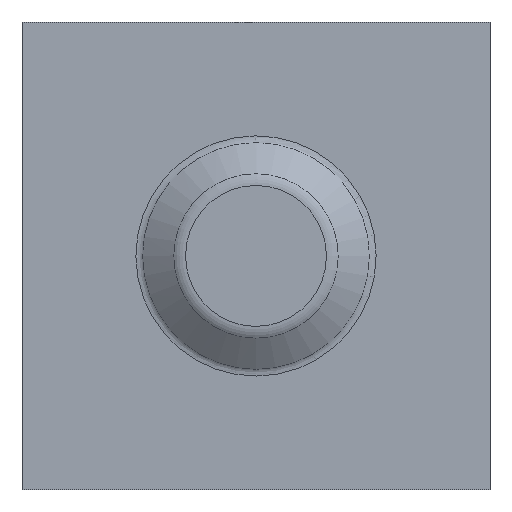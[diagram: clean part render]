
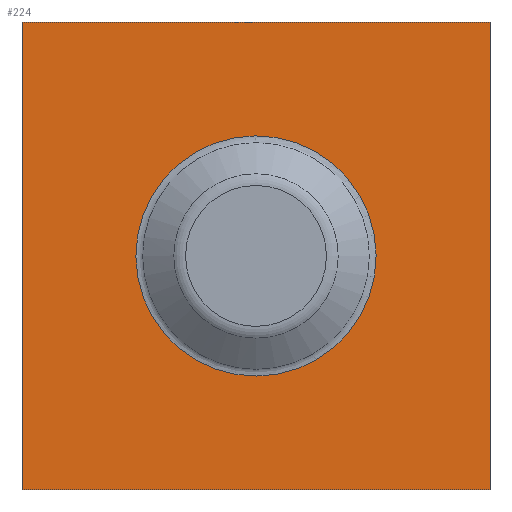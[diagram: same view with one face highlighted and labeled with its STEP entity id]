
A CAD part, top view. The second image highlights one B-rep face of the part: STEP entity #224.
In plain terms, the highlighted planar face has unit normal (0, 0, 1).
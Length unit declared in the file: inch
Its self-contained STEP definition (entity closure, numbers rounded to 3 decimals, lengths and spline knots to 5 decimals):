
#57=CARTESIAN_POINT('',(-6.28346,5.49606,0.04724));
#58=VERTEX_POINT('',#57);
#73=CARTESIAN_POINT('',(-6.28346,7.49583,0.04724));
#74=VERTEX_POINT('',#73);
#81=CARTESIAN_POINT('',(-6.28346,-11.31127,0.04724));
#82=DIRECTION('',(0.0,1.0,-0.0));
#83=VECTOR('',#82,1.0);
#84=LINE('',#81,#83);
#85=EDGE_CURVE('',#58,#74,#84,.T.);
#104=CARTESIAN_POINT('',(-8.28347,7.49583,0.04724));
#105=VERTEX_POINT('',#104);
#112=CARTESIAN_POINT('',(-9041.94287,7.49583,0.04724));
#113=DIRECTION('',(1.0,0.0,0.0));
#114=VECTOR('',#113,1.0);
#115=LINE('',#112,#114);
#116=EDGE_CURVE('',#105,#74,#115,.T.);
#162=CARTESIAN_POINT('',(-8.28347,5.49606,0.04724));
#163=VERTEX_POINT('',#162);
#164=CARTESIAN_POINT('',(-42.97184,5.49606,0.04724));
#165=DIRECTION('',(1.0,0.0,0.0));
#166=VECTOR('',#165,1.0);
#167=LINE('',#164,#166);
#168=EDGE_CURVE('',#163,#58,#167,.T.);
#186=CARTESIAN_POINT('',(-8.28347,-470.28936,0.04724));
#187=DIRECTION('',(0.0,1.0,-0.0));
#188=VECTOR('',#187,1.0);
#189=LINE('',#186,#188);
#190=EDGE_CURVE('',#163,#105,#189,.T.);
#202=ORIENTED_EDGE('',*,*,#85,.T.);
#203=ORIENTED_EDGE('',*,*,#116,.F.);
#204=ORIENTED_EDGE('',*,*,#190,.F.);
#205=ORIENTED_EDGE('',*,*,#168,.T.);
#206=EDGE_LOOP('',(#202,#203,#204,#205));
#207=FACE_OUTER_BOUND('',#206,.T.);
#208=CARTESIAN_POINT('',(-7.28667,7.00937,0.04724));
#209=VERTEX_POINT('',#208);
#210=CARTESIAN_POINT('',(-7.28346,6.49606,0.04724));
#211=DIRECTION('',(0.0,0.0,1.0));
#212=DIRECTION('',(0.0,1.0,0.0));
#213=AXIS2_PLACEMENT_3D('',#210,#211,#212);
#214=CIRCLE('',#213,0.51332);
#215=EDGE_CURVE('',#209,#209,#214,.T.);
#216=ORIENTED_EDGE('',*,*,#215,.F.);
#217=EDGE_LOOP('',(#216));
#218=FACE_BOUND('',#217,.T.);
#219=CARTESIAN_POINT('',(0.0,0.0,0.04724));
#220=DIRECTION('',(0.0,0.0,1.0));
#221=DIRECTION('',(1.0,0.0,0.0));
#222=AXIS2_PLACEMENT_3D('',#219,#220,#221);
#223=PLANE('',#222);
#224=ADVANCED_FACE('',(#207,#218),#223,.T.);
